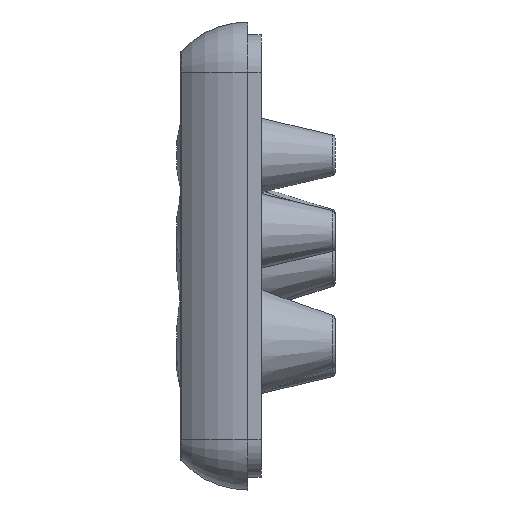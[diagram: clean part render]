
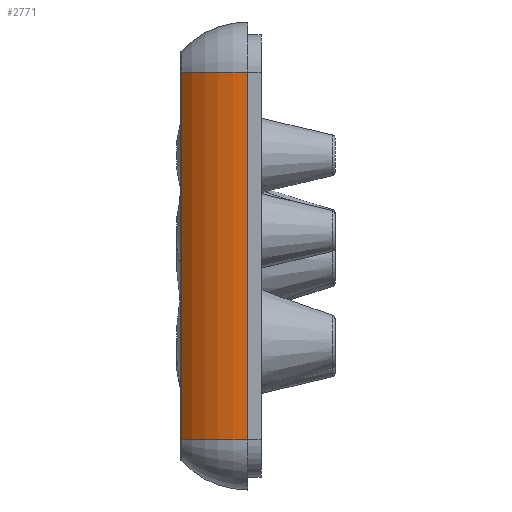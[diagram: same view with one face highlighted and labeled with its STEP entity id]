
A CAD part, left-side view. The second image highlights one B-rep face of the part: STEP entity #2771.
In plain terms, the highlighted cylindrical face has radius 10.893 mm (diameter 21.786 mm), a partial arc.
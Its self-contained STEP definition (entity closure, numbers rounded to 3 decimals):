
#59=CYLINDRICAL_SURFACE('',#3161,10.893);
#95=LINE('',#5092,#147);
#99=LINE('',#5113,#151);
#147=VECTOR('',#3841,1000.);
#151=VECTOR('',#3859,1000.);
#584=ORIENTED_EDGE('',*,*,#1200,.T.);
#585=ORIENTED_EDGE('',*,*,#1192,.T.);
#586=ORIENTED_EDGE('',*,*,#1201,.F.);
#587=ORIENTED_EDGE('',*,*,#1202,.T.);
#1192=EDGE_CURVE('',#1504,#1505,#95,.T.);
#1200=EDGE_CURVE('',#1512,#1504,#1778,.T.);
#1201=EDGE_CURVE('',#1513,#1505,#1779,.T.);
#1202=EDGE_CURVE('',#1513,#1512,#99,.T.);
#1504=VERTEX_POINT('',#5093);
#1505=VERTEX_POINT('',#5094);
#1512=VERTEX_POINT('',#5110);
#1513=VERTEX_POINT('',#5112);
#1778=CIRCLE('',#3162,10.893);
#1779=CIRCLE('',#3163,10.893);
#1985=EDGE_LOOP('',(#584,#585,#586,#587));
#2364=FACE_BOUND('',#1985,.T.);
#2771=ADVANCED_FACE('',(#2364),#59,.T.);
#3161=AXIS2_PLACEMENT_3D('',#5108,#3853,#3854);
#3162=AXIS2_PLACEMENT_3D('',#5109,#3855,#3856);
#3163=AXIS2_PLACEMENT_3D('',#5111,#3857,#3858);
#3841=DIRECTION('',(0.,0.,1.));
#3853=DIRECTION('',(0.,0.,-1.));
#3854=DIRECTION('',(-1.,0.,0.));
#3855=DIRECTION('',(0.,0.,1.));
#3856=DIRECTION('',(1.,0.,0.));
#3857=DIRECTION('',(0.,0.,1.));
#3858=DIRECTION('',(1.,0.,0.));
#3859=DIRECTION('',(0.,0.,-1.));
#5092=CARTESIAN_POINT('',(-77.,0.,-22.));
#5093=CARTESIAN_POINT('',(-77.,0.,-22.));
#5094=CARTESIAN_POINT('',(-77.,0.,22.));
#5108=CARTESIAN_POINT('',(-66.107,0.,22.));
#5109=CARTESIAN_POINT('',(-66.107,0.,-22.));
#5110=CARTESIAN_POINT('',(-73.5,8.,-22.));
#5111=CARTESIAN_POINT('',(-66.107,0.,22.));
#5112=CARTESIAN_POINT('',(-73.5,8.,22.));
#5113=CARTESIAN_POINT('',(-73.5,8.,22.));
